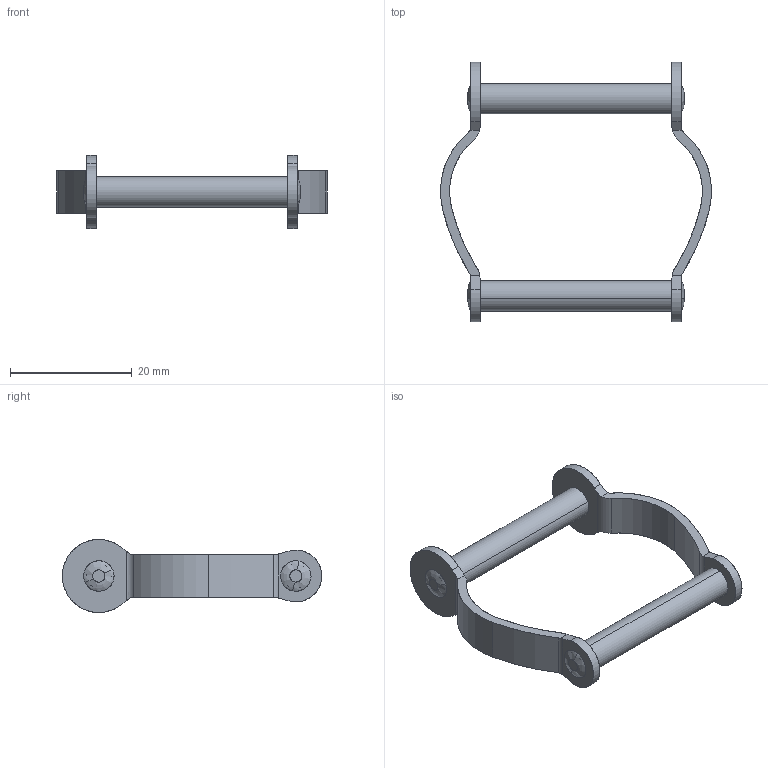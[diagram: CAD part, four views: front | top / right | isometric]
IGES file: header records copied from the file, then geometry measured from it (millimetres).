
Start section: SolidWorks IGES FILE using analytic representation for surfaces
Global section: file name: C:\WINNT\Profiles\cbrechard\Bureau\GE 35\Assemblage biellettes 35.IGS; native system: SolidWorks 2001Plus by SolidWorks Corporation; preprocessor: Version 5.3; author: CBRECHARD; date: 050124.172931; units: millimetre
Bounding box: 44.47 x 42.6 x 12 mm (x, y, z)
Surface area: 2888.3 mm2 (no closed solid volume)
Topology: 0 solids, 0 shells, 82 faces, 1528 edges, 1528 vertices
Faces by surface type: revolution 42, bspline 40
